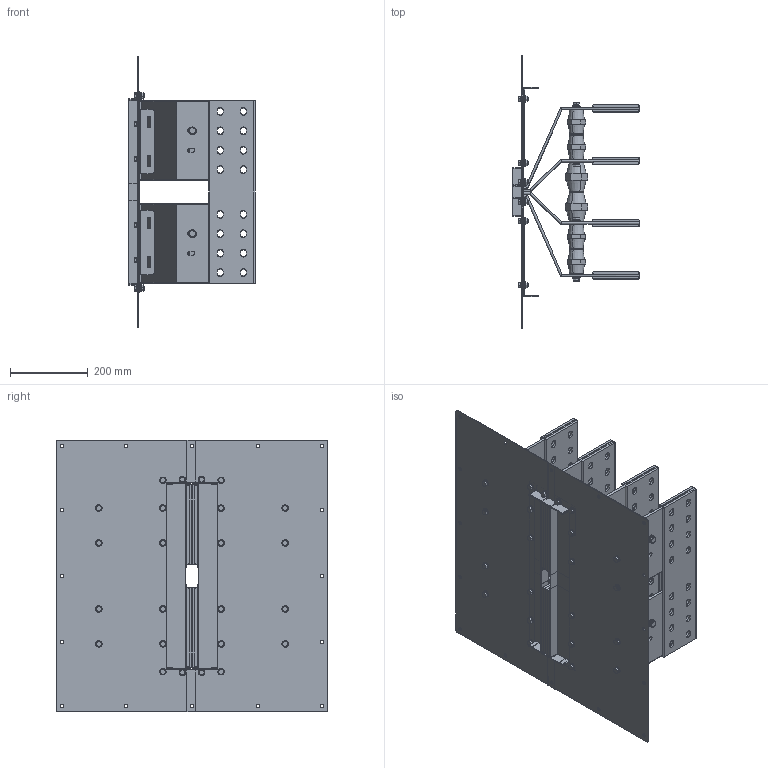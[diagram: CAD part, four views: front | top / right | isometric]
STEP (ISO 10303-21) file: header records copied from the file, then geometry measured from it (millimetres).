
FILE_DESCRIPTION(('CATIA V5 STEP','CAx-IF Rec.Pracs.--- Model Styling and Organization---1.5--- 2016-08-15','CAx-IF Rec.Pracs.---Supplemental Geometry---1.0---2011-11-01','CAx-IF Rec.Pracs.--- Composite Materials ---1.1---2010-07-15'),'2;1');
FILE_NAME('K:\COSCN 2011\32372311_RiduzioneSezioniBarre\03_Studio\__Modelli semplificati\XCP_UB semplificati per studi\XCP-HP_UB_4C_Pe_CRT_Assieme\Al\XCP-HP_UB_4C_Pe_D_Assieme - 4000A Al_CRT\XCP-HP_UB_4C_Pe_D_Assieme - 4000A Al_CRT.stp','2025-05-12T09:59:01+00:00',('Utente Bticino'),('Bticino S.p.A.'),'CATIA Version 5-6 Release 2020 SP5','CATIA V5 STEP AP214 v2','none');
FILE_SCHEMA(('AUTOMOTIVE_DESIGN { 1 0 10303 214 1 1 1 1 }'));
Length unit declared in the file: millimetre
Products named in the file (30): XCP-HP_UB_4C_Pe_D_Assieme - 4000A Al_CRT; XCP-HP_UB_4C_Pe_D_PaccoBarre_4000A Al_CRT; XCP-HP_UB_4C_Pe_D_Lamiere_4000A Al_CRT; XCP-HP_UB_4C_Pe_D_PaccoBarre_4000A Al_CRT_1; XCP-HP_UB_4C_Pe_D - 4000A Al_Bandelle parallelo_CRT; 130006; 130184; 00750033 - RONDELLA PIANA 4.8 D.12 UNI 6592 ZB; Ass_M10x25.1; 00740025 M10x25 UNI5739; Rondella spac M10 UNI 1751; 00750005; 130006_1; 00750033 - RONDELLA PIANA 4.8 D.12 UNI 6592 ZB_1; 130184_1; 130006_2; 00750033 - RONDELLA PIANA 4.8 D.12 UNI 6592 ZB_2; 130006_3; 130006_4; 130184_2; 00750033 - RONDELLA PIANA 4.8 D.12 UNI 6592 ZB_3; 130006_5; 00750033 - RONDELLA PIANA 4.8 D.12 UNI 6592 ZB_4; 130184_3; 130006_6; 00750033 - RONDELLA PIANA 4.8 D.12 UNI 6592 ZB_5; 130006_7; Ass Vite+dado M8; Steel hex flanged SCREW M12x16; Steel hex flanged NUT M8
Assembly tree (63 placements, depth 3):
  XCP-HP_UB_4C_Pe_D_Assieme - 4000A Al_CRT
    XCP-HP_UB_4C_Pe_D_PaccoBarre_4000A Al_CRT
    XCP-HP_UB_4C_Pe_D_Lamiere_4000A Al_CRT
    XCP-HP_UB_4C_Pe_D_PaccoBarre_4000A Al_CRT_1
    XCP-HP_UB_4C_Pe_D - 4000A Al_Bandelle parallelo_CRT
    130006
    130184
    00750033 - RONDELLA PIANA 4.8 D.12 UNI 6592 ZB
    Ass_M10x25.1  x12
      00740025 M10x25 UNI5739
      Rondella spac M10 UNI 1751
      00750005
    130006_1
    00750033 - RONDELLA PIANA 4.8 D.12 UNI 6592 ZB_1
    130184_1
    130006_2
    00750033 - RONDELLA PIANA 4.8 D.12 UNI 6592 ZB_2
    130006_3
    130006_4
    130184_2
    00750033 - RONDELLA PIANA 4.8 D.12 UNI 6592 ZB_3
    130006_5
    00750033 - RONDELLA PIANA 4.8 D.12 UNI 6592 ZB_4
    130184_3
    130006_6
    00750033 - RONDELLA PIANA 4.8 D.12 UNI 6592 ZB_5
    130006_7
    Ass Vite+dado M8  x24
      Steel hex flanged SCREW M12x16
      Steel hex flanged NUT M8
Bounding box: 325 x 700 x 700 mm (x, y, z)
Volume: 9167291.4 mm3; surface area: 4102518.4 mm2
Topology: 132 solids, 132 shells, 3416 faces, 8492 edges, 5400 vertices
Faces by surface type: plane 1560, cylinder 1120, cone 336, bspline 288, torus 112
Entity records: 57668 total; most frequent: CARTESIAN_POINT 11350, ORIENTED_EDGE 10296, DIRECTION 7310, EDGE_CURVE 5148, VERTEX_POINT 3332, VECTOR 3160, LINE 3160, AXIS2_PLACEMENT_3D 3014
